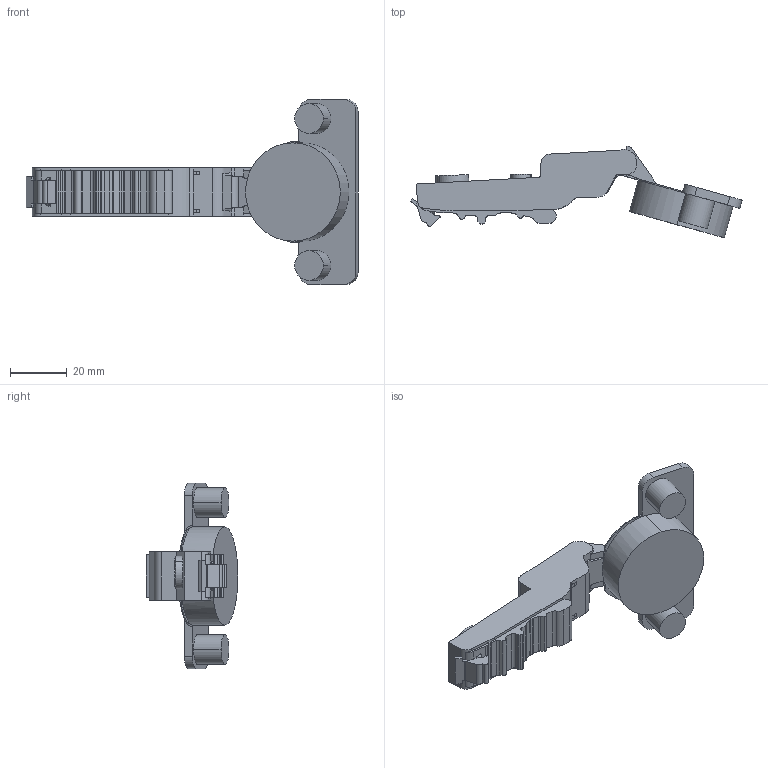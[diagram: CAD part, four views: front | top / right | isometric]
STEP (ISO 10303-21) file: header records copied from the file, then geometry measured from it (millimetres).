
FILE_DESCRIPTION (( 'STEP AP203' ), '1' );
FILE_NAME ('C82B677MFA-DTC 3D open.STEP', '2024-07-10T09:07:01', ( '微软用户' ), ( '微软中国' ), 'SwSTEP 2.0', 'SolidWorks 2021', '' );
FILE_SCHEMA (( 'CONFIG_CONTROL_DESIGN' ));
Length unit declared in the file: millimetre
Products named in the file (1): C82B677MFA-DTC 3D open
Bounding box: 117.45 x 32.41 x 65.56 mm (x, y, z)
Volume: 36038.7 mm3; surface area: 12018.8 mm2
Topology: 1 solids, 1 shells, 216 faces, 620 edges, 410 vertices
Faces by surface type: plane 102, cylinder 90, torus 12, bspline 8, cone 4
Entity records: 7430 total; most frequent: CARTESIAN_POINT 1644, ORIENTED_EDGE 1240, DIRECTION 1194, EDGE_CURVE 620, AXIS2_PLACEMENT_3D 424, VERTEX_POINT 410, LINE 346, VECTOR 346
